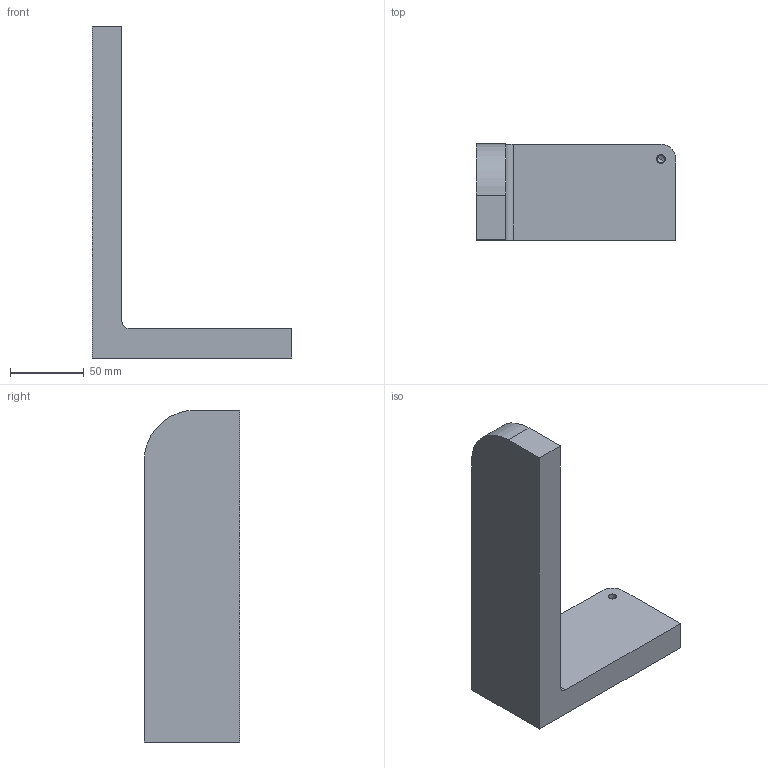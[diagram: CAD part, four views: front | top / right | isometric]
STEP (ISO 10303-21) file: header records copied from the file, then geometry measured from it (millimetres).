
FILE_DESCRIPTION(('CATIA V5 STEP Exchange'),'2;1');
FILE_NAME('C:\_Andres\UNIVERSIDAD\IQS\ASIGNATURAS\DAO\EXF\EXF-16172c\2inicio\Uria_Ciurana_Ej01_v35.stp','2017-03-05T15:11:13+00:00',('none'),('none'),'CATIA Version 5-6 Release 2014 SP1 HF18','CATIA V5 STEP AP203','none');
FILE_SCHEMA(('CONFIG_CONTROL_DESIGN'));
Length unit declared in the file: millimetre
Products named in the file (1): Uria_Ciurana_Ej01_v35
Bounding box: 135 x 65 x 225 mm (x, y, z)
Volume: 436349 mm3; surface area: 59792.5 mm2
Topology: 1 solids, 2 shells, 17 faces, 43 edges, 27 vertices
Faces by surface type: plane 8, cylinder 7, cone 2
Entity records: 513 total; most frequent: CARTESIAN_POINT 83, ORIENTED_EDGE 78, DIRECTION 69, EDGE_CURVE 41, AXIS2_PLACEMENT_3D 29, VECTOR 27, LINE 27, VERTEX_POINT 27
